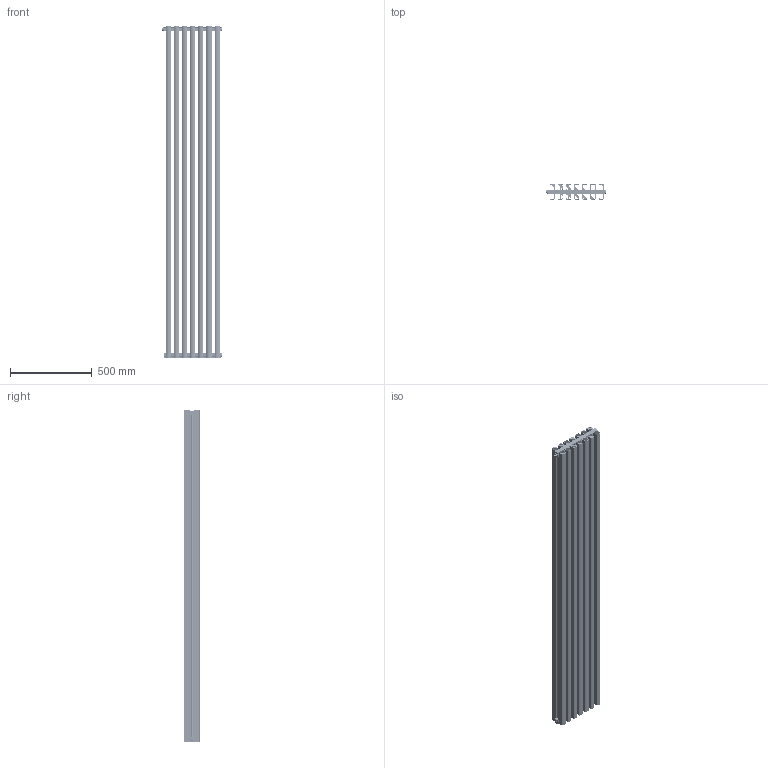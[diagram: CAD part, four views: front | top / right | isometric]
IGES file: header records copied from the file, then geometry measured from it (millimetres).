
Start section: SolidWorks IGES file using analytic representation for surfaces
Global section: file name: S:\RicercaSviluppo\01_DISEGNI\2_DISEGNI\02_ELEMENTI\39_TONALE\39_99_RICHIESTE CLIENTI\39_99_DRL\22-07-24\TONALE 2000_7.IGS; native system: SolidWorks 2024; preprocessor: SolidWorks 2024; author: massimo; date: 240722.103906; units: millimetre
Bounding box: 366.3 x 95 x 2037 mm (x, y, z)
Surface area: 10298491.6 mm2 (no closed solid volume)
Topology: 0 solids, 0 shells, 4252 faces, 51810 edges, 51726 vertices
Faces by surface type: revolution 2171, bspline 2081
